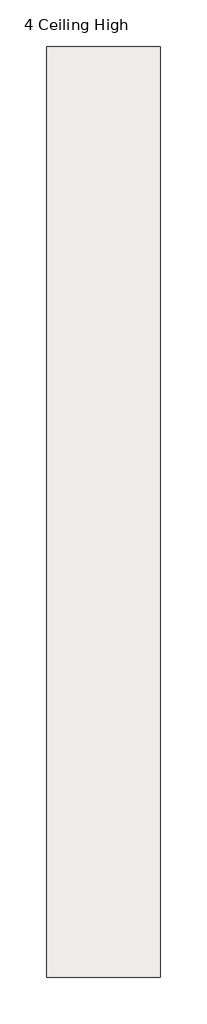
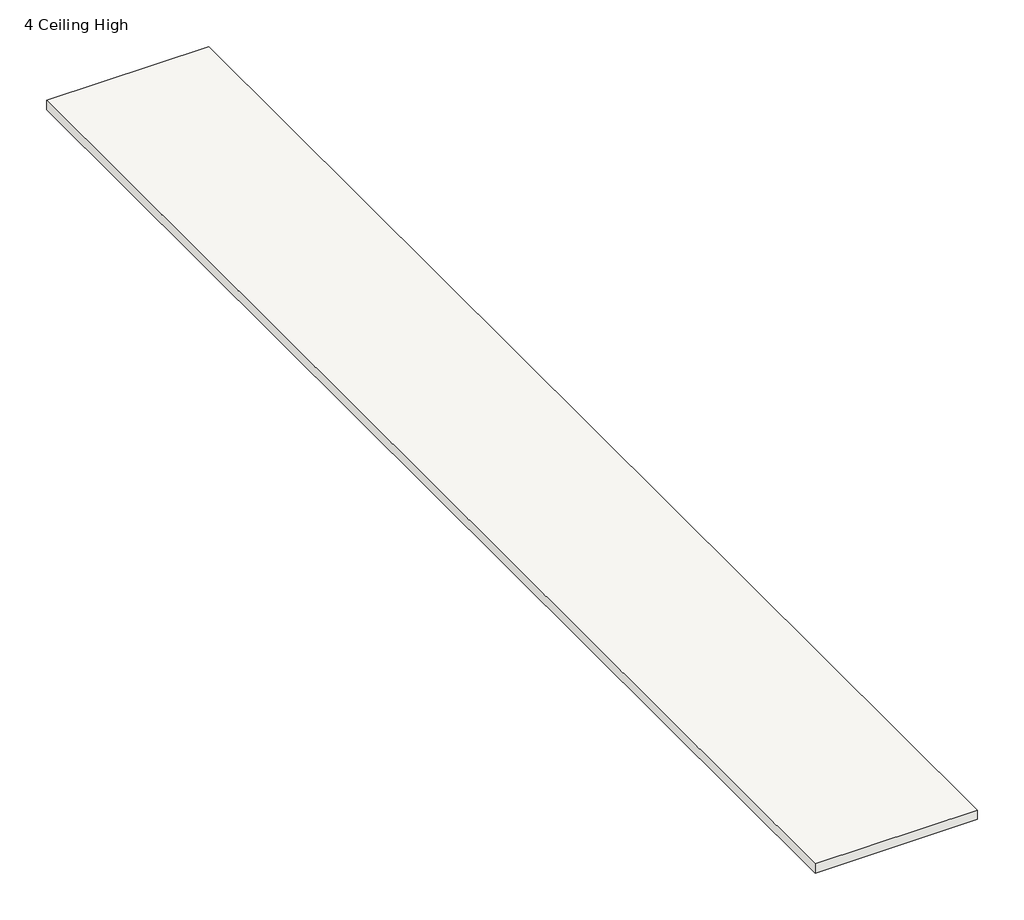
# One storey, incomplete: 1 covering.
"""IFC4 building model written with IfcOpenShell, lengths in millimetres."""

from ifc_helpers import new_model, si_unit, origin, origin_with_axes, place, context, project, spatial, polyline, outline, extrude, element, save

model = new_model("IFC4")

# Units and contexts
model_context = context("Model", 3, world=origin())
ifc_project = project(units=[si_unit("LENGTHUNIT", "METRE", prefix="MILLI")], contexts=[model_context])

# Site, building, storey
site = spatial("IfcSite", under=ifc_project)
building = spatial("IfcBuilding", under=site)
storey = spatial("IfcBuildingStorey", under=building, Name="4 Ceiling High", Elevation=0.0)

# Covering
placement = place(None, origin())
element("IfcCovering", 1, ObjectType="Controsoffitto", at=placement, inside=storey, context=model_context, shape_type="SweptSolid", body=[
    extrude(outline(polyline([(2500.0, -7000.0), (2500.0, -48000.0), (-2500.0, -48000.0), (-2500.0, -7000.0), (2500.0, -7000.0)])), origin_with_axes(), (0.0, 0.0, 1.0), 300.0),
])

save(model, "model.ifc")
